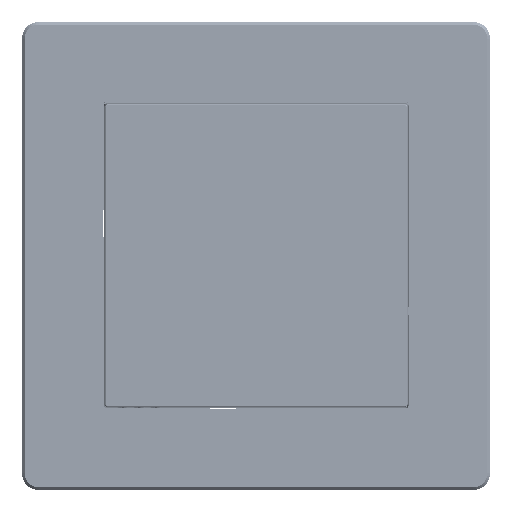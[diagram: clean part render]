
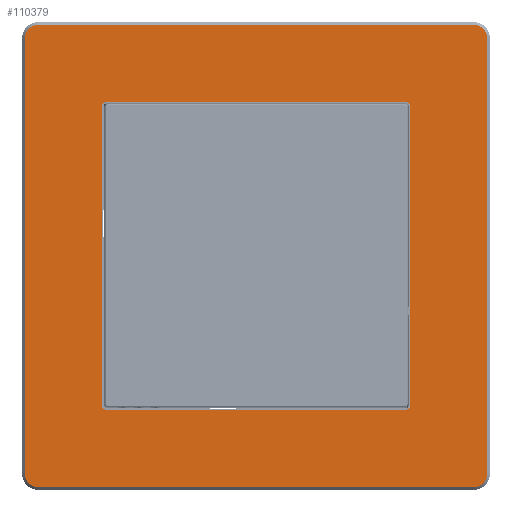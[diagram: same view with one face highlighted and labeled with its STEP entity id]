
A CAD part, top view. The second image highlights one B-rep face of the part: STEP entity #110379.
In plain terms, the highlighted planar face has unit normal (0, 0, 1) as drawn and (0, 1, 0) by its records, which use the part's own axes.
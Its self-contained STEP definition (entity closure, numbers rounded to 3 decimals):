
#8092=CIRCLE('',#119208,2.5);
#8094=CIRCLE('',#119212,2.5);
#8095=CIRCLE('',#119215,2.5);
#8096=CIRCLE('',#119218,2.5);
#8097=CIRCLE('',#119223,0.5);
#8098=CIRCLE('',#119224,0.5);
#8099=CIRCLE('',#119225,0.5);
#8100=CIRCLE('',#119226,0.5);
#11448=FACE_BOUND('',#23513,.T.);
#15536=FACE_OUTER_BOUND('',#23512,.T.);
#23512=EDGE_LOOP('',(#90763,#90764,#90765,#90766,#90767,#90768,#90769,#90770));
#23513=EDGE_LOOP('',(#90771,#90772,#90773,#90774,#90775,#90776,#90777,#90778));
#31674=LINE('',#181940,#41475);
#31678=LINE('',#181952,#41479);
#31682=LINE('',#181963,#41483);
#31686=LINE('',#181972,#41487);
#31690=LINE('',#181984,#41491);
#31691=LINE('',#181988,#41492);
#31692=LINE('',#181992,#41493);
#31693=LINE('',#181996,#41494);
#41475=VECTOR('',#140125,79.);
#41479=VECTOR('',#140137,79.);
#41483=VECTOR('',#140149,79.);
#41487=VECTOR('',#140159,79.);
#41491=VECTOR('',#140175,54.8);
#41492=VECTOR('',#140178,54.8);
#41493=VECTOR('',#140181,54.8);
#41494=VECTOR('',#140184,54.8);
#52678=VERTEX_POINT('',#181937);
#52679=VERTEX_POINT('',#181939);
#52681=VERTEX_POINT('',#181945);
#52683=VERTEX_POINT('',#181950);
#52685=VERTEX_POINT('',#181957);
#52686=VERTEX_POINT('',#181961);
#52687=VERTEX_POINT('',#181966);
#52688=VERTEX_POINT('',#181970);
#52689=VERTEX_POINT('',#181982);
#52690=VERTEX_POINT('',#181983);
#52691=VERTEX_POINT('',#181985);
#52692=VERTEX_POINT('',#181987);
#52693=VERTEX_POINT('',#181989);
#52694=VERTEX_POINT('',#181991);
#52695=VERTEX_POINT('',#181993);
#52696=VERTEX_POINT('',#181995);
#65998=EDGE_CURVE('',#52678,#52679,#31674,.T.);
#66002=EDGE_CURVE('',#52681,#52678,#8092,.T.);
#66004=EDGE_CURVE('',#52683,#52681,#31678,.T.);
#66008=EDGE_CURVE('',#52685,#52683,#8094,.T.);
#66010=EDGE_CURVE('',#52686,#52685,#31682,.T.);
#66013=EDGE_CURVE('',#52687,#52686,#8095,.T.);
#66015=EDGE_CURVE('',#52688,#52687,#31686,.T.);
#66016=EDGE_CURVE('',#52679,#52688,#8096,.T.);
#66020=EDGE_CURVE('',#52689,#52690,#31690,.T.);
#66021=EDGE_CURVE('',#52691,#52690,#8097,.T.);
#66022=EDGE_CURVE('',#52691,#52692,#31691,.T.);
#66023=EDGE_CURVE('',#52693,#52692,#8098,.T.);
#66024=EDGE_CURVE('',#52693,#52694,#31692,.T.);
#66025=EDGE_CURVE('',#52695,#52694,#8099,.T.);
#66026=EDGE_CURVE('',#52695,#52696,#31693,.T.);
#66027=EDGE_CURVE('',#52689,#52696,#8100,.T.);
#90763=ORIENTED_EDGE('',*,*,#65998,.F.);
#90764=ORIENTED_EDGE('',*,*,#66002,.F.);
#90765=ORIENTED_EDGE('',*,*,#66004,.F.);
#90766=ORIENTED_EDGE('',*,*,#66008,.F.);
#90767=ORIENTED_EDGE('',*,*,#66010,.F.);
#90768=ORIENTED_EDGE('',*,*,#66013,.F.);
#90769=ORIENTED_EDGE('',*,*,#66015,.F.);
#90770=ORIENTED_EDGE('',*,*,#66016,.F.);
#90771=ORIENTED_EDGE('',*,*,#66020,.T.);
#90772=ORIENTED_EDGE('',*,*,#66021,.F.);
#90773=ORIENTED_EDGE('',*,*,#66022,.T.);
#90774=ORIENTED_EDGE('',*,*,#66023,.F.);
#90775=ORIENTED_EDGE('',*,*,#66024,.T.);
#90776=ORIENTED_EDGE('',*,*,#66025,.F.);
#90777=ORIENTED_EDGE('',*,*,#66026,.T.);
#90778=ORIENTED_EDGE('',*,*,#66027,.F.);
#104739=PLANE('',#119222);
#110379=ADVANCED_FACE('',(#15536,#11448),#104739,.T.);
#119208=AXIS2_PLACEMENT_3D('',#181947,#140132,#140133);
#119212=AXIS2_PLACEMENT_3D('',#181959,#140144,#140145);
#119215=AXIS2_PLACEMENT_3D('',#181968,#140154,#140155);
#119218=AXIS2_PLACEMENT_3D('',#181974,#140162,#140163);
#119222=AXIS2_PLACEMENT_3D('',#181981,#140173,#140174);
#119223=AXIS2_PLACEMENT_3D('',#181986,#140176,#140177);
#119224=AXIS2_PLACEMENT_3D('',#181990,#140179,#140180);
#119225=AXIS2_PLACEMENT_3D('',#181994,#140182,#140183);
#119226=AXIS2_PLACEMENT_3D('',#181997,#140185,#140186);
#140125=DIRECTION('',(1.,0.,0.));
#140132=DIRECTION('center_axis',(0.,-1.,0.));
#140133=DIRECTION('ref_axis',(-0.707,0.,-0.707));
#140137=DIRECTION('',(0.,0.,-1.));
#140144=DIRECTION('center_axis',(0.,-1.,0.));
#140145=DIRECTION('ref_axis',(-0.707,0.,0.707));
#140149=DIRECTION('',(-1.,0.,0.));
#140154=DIRECTION('center_axis',(0.,-1.,0.));
#140155=DIRECTION('ref_axis',(0.707,0.,0.707));
#140159=DIRECTION('',(0.,0.,1.));
#140162=DIRECTION('center_axis',(0.,-1.,0.));
#140163=DIRECTION('ref_axis',(0.707,0.,-0.707));
#140173=DIRECTION('center_axis',(0.,1.,0.));
#140174=DIRECTION('ref_axis',(0.,0.,1.));
#140175=DIRECTION('',(0.,0.,-1.));
#140176=DIRECTION('center_axis',(0.,1.,0.));
#140177=DIRECTION('ref_axis',(-0.707,0.,-0.707));
#140178=DIRECTION('',(1.,0.,0.));
#140179=DIRECTION('center_axis',(0.,1.,0.));
#140180=DIRECTION('ref_axis',(0.707,0.,-0.707));
#140181=DIRECTION('',(0.,0.,1.));
#140182=DIRECTION('center_axis',(0.,1.,0.));
#140183=DIRECTION('ref_axis',(0.707,0.,0.707));
#140184=DIRECTION('',(-1.,0.,0.));
#140185=DIRECTION('center_axis',(0.,1.,0.));
#140186=DIRECTION('ref_axis',(-0.707,0.,0.707));
#181937=CARTESIAN_POINT('',(-49.5,8.5,-77.4));
#181939=CARTESIAN_POINT('',(29.5,8.5,-77.4));
#181940=CARTESIAN_POINT('',(-49.5,8.5,-77.4));
#181945=CARTESIAN_POINT('',(-52.,8.5,-74.9));
#181947=CARTESIAN_POINT('Origin',(-49.5,8.5,-74.9));
#181950=CARTESIAN_POINT('',(-52.,8.5,4.1));
#181952=CARTESIAN_POINT('',(-52.,8.5,4.1));
#181957=CARTESIAN_POINT('',(-49.5,8.5,6.6));
#181959=CARTESIAN_POINT('Origin',(-49.5,8.5,4.1));
#181961=CARTESIAN_POINT('',(29.5,8.5,6.6));
#181963=CARTESIAN_POINT('',(29.5,8.5,6.6));
#181966=CARTESIAN_POINT('',(32.,8.5,4.1));
#181968=CARTESIAN_POINT('Origin',(29.5,8.5,4.1));
#181970=CARTESIAN_POINT('',(32.,8.5,-74.9));
#181972=CARTESIAN_POINT('',(32.,8.5,-74.9));
#181974=CARTESIAN_POINT('Origin',(29.5,8.5,-74.9));
#181981=CARTESIAN_POINT('Origin',(-10.,8.5,-35.4));
#181982=CARTESIAN_POINT('',(-37.9,8.5,-8.));
#181983=CARTESIAN_POINT('',(-37.9,8.5,-62.8));
#181984=CARTESIAN_POINT('',(-37.9,8.5,-8.));
#181985=CARTESIAN_POINT('',(-37.4,8.5,-63.3));
#181986=CARTESIAN_POINT('Origin',(-37.4,8.5,-62.8));
#181987=CARTESIAN_POINT('',(17.4,8.5,-63.3));
#181988=CARTESIAN_POINT('',(-37.4,8.5,-63.3));
#181989=CARTESIAN_POINT('',(17.9,8.5,-62.8));
#181990=CARTESIAN_POINT('Origin',(17.4,8.5,-62.8));
#181991=CARTESIAN_POINT('',(17.9,8.5,-8.));
#181992=CARTESIAN_POINT('',(17.9,8.5,-62.8));
#181993=CARTESIAN_POINT('',(17.4,8.5,-7.5));
#181994=CARTESIAN_POINT('Origin',(17.4,8.5,-8.));
#181995=CARTESIAN_POINT('',(-37.4,8.5,-7.5));
#181996=CARTESIAN_POINT('',(17.4,8.5,-7.5));
#181997=CARTESIAN_POINT('Origin',(-37.4,8.5,-8.));
